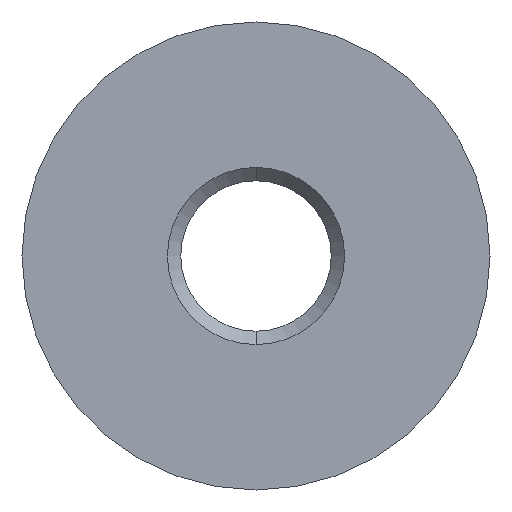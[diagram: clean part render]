
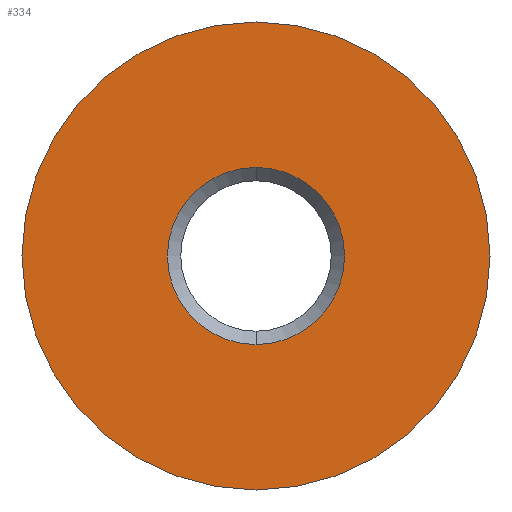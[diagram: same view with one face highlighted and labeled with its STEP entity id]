
A CAD part, front view. The second image highlights one B-rep face of the part: STEP entity #334.
In plain terms, the highlighted planar face has unit normal (0, -1, 0).
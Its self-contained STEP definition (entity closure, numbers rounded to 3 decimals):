
#5 = CARTESIAN_POINT ( 'NONE',  ( 0., -5., -2.65 ) ) ;
#14 = FACE_OUTER_BOUND ( 'NONE', #156, .T. ) ;
#19 = CIRCLE ( 'NONE', #216, 2.65 ) ;
#23 = EDGE_CURVE ( 'NONE', #61, #323, #307, .T. ) ;
#43 = DIRECTION ( 'NONE',  ( 0., -1., 0. ) ) ;
#61 = VERTEX_POINT ( 'NONE', #321 ) ;
#63 = CARTESIAN_POINT ( 'NONE',  ( 0., -5., 0. ) ) ;
#70 = VERTEX_POINT ( 'NONE', #5 ) ;
#93 = CIRCLE ( 'NONE', #152, 7. ) ;
#102 = DIRECTION ( 'NONE',  ( 0., 0., -1. ) ) ;
#122 = CARTESIAN_POINT ( 'NONE',  ( 0., -5., 0. ) ) ;
#136 = AXIS2_PLACEMENT_3D ( 'NONE', #256, #186, #185 ) ;
#148 = ORIENTED_EDGE ( 'NONE', *, *, #370, .T. ) ;
#152 = AXIS2_PLACEMENT_3D ( 'NONE', #349, #389, #314 ) ;
#156 = EDGE_LOOP ( 'NONE', ( #384, #148 ) ) ;
#170 = DIRECTION ( 'NONE',  ( 0., 0., -1. ) ) ;
#171 = CIRCLE ( 'NONE', #226, 2.65 ) ;
#172 = DIRECTION ( 'NONE',  ( 0., 0., -1. ) ) ;
#174 = ORIENTED_EDGE ( 'NONE', *, *, #285, .F. ) ;
#177 = CARTESIAN_POINT ( 'NONE',  ( 0., -5., 2.65 ) ) ;
#178 = EDGE_CURVE ( 'NONE', #70, #338, #171, .T. ) ;
#185 = DIRECTION ( 'NONE',  ( 0., 0., 1. ) ) ;
#186 = DIRECTION ( 'NONE',  ( 0., 1., 0. ) ) ;
#215 = PLANE ( 'NONE',  #136 ) ;
#216 = AXIS2_PLACEMENT_3D ( 'NONE', #320, #261, #172 ) ;
#220 = EDGE_LOOP ( 'NONE', ( #325, #174 ) ) ;
#226 = AXIS2_PLACEMENT_3D ( 'NONE', #122, #43, #170 ) ;
#231 = CARTESIAN_POINT ( 'NONE',  ( 0., -5., 7. ) ) ;
#249 = DIRECTION ( 'NONE',  ( 0., -1., 0. ) ) ;
#256 = CARTESIAN_POINT ( 'NONE',  ( -2.65, -5., 0. ) ) ;
#261 = DIRECTION ( 'NONE',  ( 0., -1., 0. ) ) ;
#277 = AXIS2_PLACEMENT_3D ( 'NONE', #63, #249, #102 ) ;
#285 = EDGE_CURVE ( 'NONE', #338, #70, #19, .T. ) ;
#307 = CIRCLE ( 'NONE', #277, 7. ) ;
#314 = DIRECTION ( 'NONE',  ( 0., 0., -1. ) ) ;
#320 = CARTESIAN_POINT ( 'NONE',  ( 0., -5., 0. ) ) ;
#321 = CARTESIAN_POINT ( 'NONE',  ( 0., -5., -7. ) ) ;
#323 = VERTEX_POINT ( 'NONE', #231 ) ;
#325 = ORIENTED_EDGE ( 'NONE', *, *, #178, .F. ) ;
#334 = ADVANCED_FACE ( 'NONE', ( #367, #14 ), #215, .F. ) ;
#338 = VERTEX_POINT ( 'NONE', #177 ) ;
#349 = CARTESIAN_POINT ( 'NONE',  ( 0., -5., 0. ) ) ;
#367 = FACE_BOUND ( 'NONE', #220, .T. ) ;
#370 = EDGE_CURVE ( 'NONE', #323, #61, #93, .T. ) ;
#384 = ORIENTED_EDGE ( 'NONE', *, *, #23, .T. ) ;
#389 = DIRECTION ( 'NONE',  ( 0., -1., 0. ) ) ;
